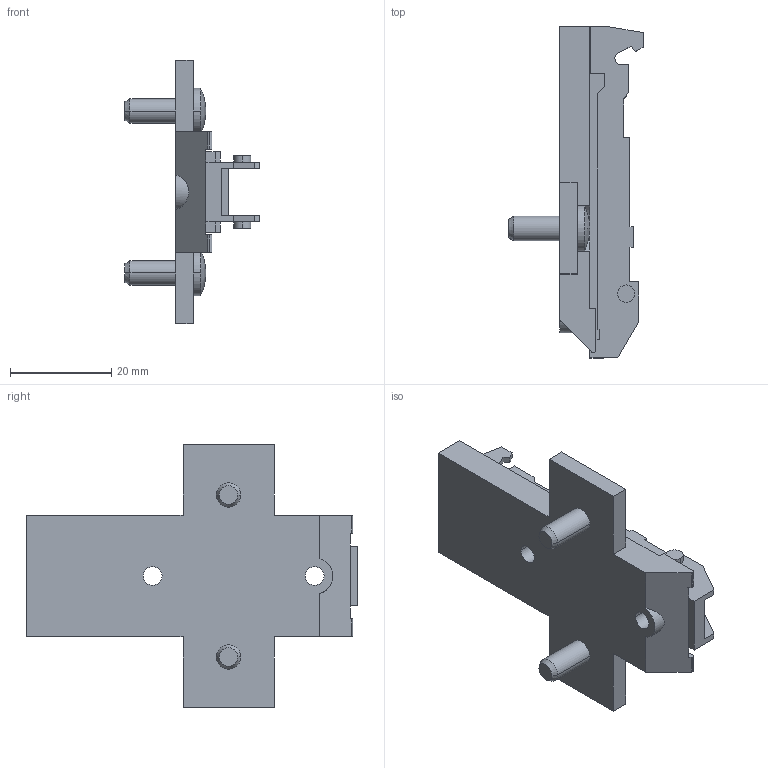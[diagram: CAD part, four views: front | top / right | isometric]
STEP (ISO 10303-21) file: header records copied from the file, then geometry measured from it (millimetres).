
FILE_DESCRIPTION (( 'STEP AP214' ), '1' );
FILE_NAME ('1D Kreuzmontageplatte 2Pkt. - Distanz 06mm.step', '2010-11-18T10:16:36', ( 'grass' ), ( '' ), 'SwSTEP 2.0', 'SolidWorks 2010', '' );
FILE_SCHEMA (( 'AUTOMOTIVE_DESIGN' ));
Length unit declared in the file: millimetre
Products named in the file (1): 1D Kreuzmontageplatte 2Pkt. - Distanz 06mm
Bounding box: 26.5 x 65.55 x 52 mm (x, y, z)
Volume: 14667.1 mm3; surface area: 7924.7 mm2
Topology: 1 solids, 1 shells, 123 faces, 341 edges, 226 vertices
Faces by surface type: plane 90, cylinder 25, cone 4, sphere 4
Entity records: 3946 total; most frequent: CARTESIAN_POINT 694, ORIENTED_EDGE 682, DIRECTION 649, EDGE_CURVE 341, VECTOR 279, LINE 279, VERTEX_POINT 226, AXIS2_PLACEMENT_3D 185
